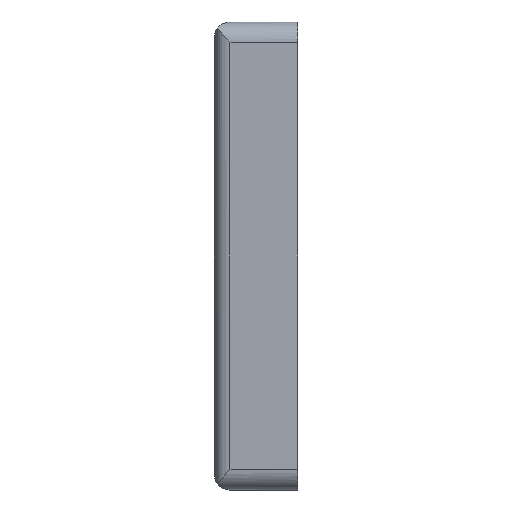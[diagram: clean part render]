
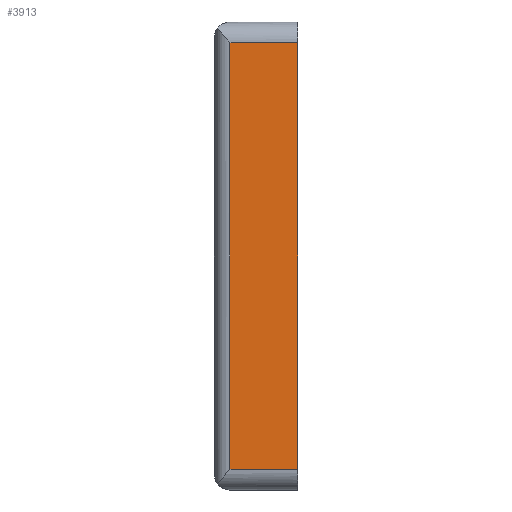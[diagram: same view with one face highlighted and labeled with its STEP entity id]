
A CAD part, left-side view. The second image highlights one B-rep face of the part: STEP entity #3913.
In plain terms, the highlighted planar face has unit normal (-1, 0, 0).
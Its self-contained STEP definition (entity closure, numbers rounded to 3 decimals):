
#185 = CARTESIAN_POINT ( 'NONE',  ( -45., 13., -41. ) ) ;
#224 = VECTOR ( 'NONE', #931, 1000. ) ;
#282 = CARTESIAN_POINT ( 'NONE',  ( -45., 13., 41. ) ) ;
#325 = CARTESIAN_POINT ( 'NONE',  ( -45., 0., 41. ) ) ;
#510 = LINE ( 'NONE', #282, #3354 ) ;
#861 = VERTEX_POINT ( 'NONE', #2447 ) ;
#866 = VECTOR ( 'NONE', #1859, 1000. ) ;
#931 = DIRECTION ( 'NONE',  ( 0., 1., 0. ) ) ;
#1017 = LINE ( 'NONE', #3892, #866 ) ;
#1333 = CARTESIAN_POINT ( 'NONE',  ( -45., 0., -41. ) ) ;
#1365 = CARTESIAN_POINT ( 'NONE',  ( -45., 13., 41. ) ) ;
#1422 = LINE ( 'NONE', #3074, #3013 ) ;
#1470 = EDGE_LOOP ( 'NONE', ( #3491, #2139, #4167, #4013 ) ) ;
#1582 = VERTEX_POINT ( 'NONE', #1333 ) ;
#1588 = EDGE_CURVE ( 'NONE', #1582, #861, #1017, .T. ) ;
#1859 = DIRECTION ( 'NONE',  ( 0., 0., 1. ) ) ;
#1960 = LINE ( 'NONE', #325, #224 ) ;
#2139 = ORIENTED_EDGE ( 'NONE', *, *, #4172, .T. ) ;
#2158 = PLANE ( 'NONE',  #2191 ) ;
#2191 = AXIS2_PLACEMENT_3D ( 'NONE', #3108, #4094, #4115 ) ;
#2447 = CARTESIAN_POINT ( 'NONE',  ( -45., 0., 41. ) ) ;
#2490 = VERTEX_POINT ( 'NONE', #1365 ) ;
#2804 = FACE_OUTER_BOUND ( 'NONE', #1470, .T. ) ;
#3013 = VECTOR ( 'NONE', #4042, 1000. ) ;
#3074 = CARTESIAN_POINT ( 'NONE',  ( -45., 0., -41. ) ) ;
#3108 = CARTESIAN_POINT ( 'NONE',  ( -45., 0., 41. ) ) ;
#3283 = VERTEX_POINT ( 'NONE', #185 ) ;
#3285 = EDGE_CURVE ( 'NONE', #2490, #3283, #510, .T. ) ;
#3354 = VECTOR ( 'NONE', #4188, 1000. ) ;
#3416 = EDGE_CURVE ( 'NONE', #3283, #1582, #1422, .T. ) ;
#3491 = ORIENTED_EDGE ( 'NONE', *, *, #1588, .T. ) ;
#3892 = CARTESIAN_POINT ( 'NONE',  ( -45., 0., 0. ) ) ;
#3913 = ADVANCED_FACE ( 'NONE', ( #2804 ), #2158, .T. ) ;
#4013 = ORIENTED_EDGE ( 'NONE', *, *, #3416, .T. ) ;
#4042 = DIRECTION ( 'NONE',  ( 0., -1., 0. ) ) ;
#4094 = DIRECTION ( 'NONE',  ( -1., 0., 0. ) ) ;
#4115 = DIRECTION ( 'NONE',  ( 0., 0., 1. ) ) ;
#4167 = ORIENTED_EDGE ( 'NONE', *, *, #3285, .T. ) ;
#4172 = EDGE_CURVE ( 'NONE', #861, #2490, #1960, .T. ) ;
#4188 = DIRECTION ( 'NONE',  ( 0., 0., -1. ) ) ;
